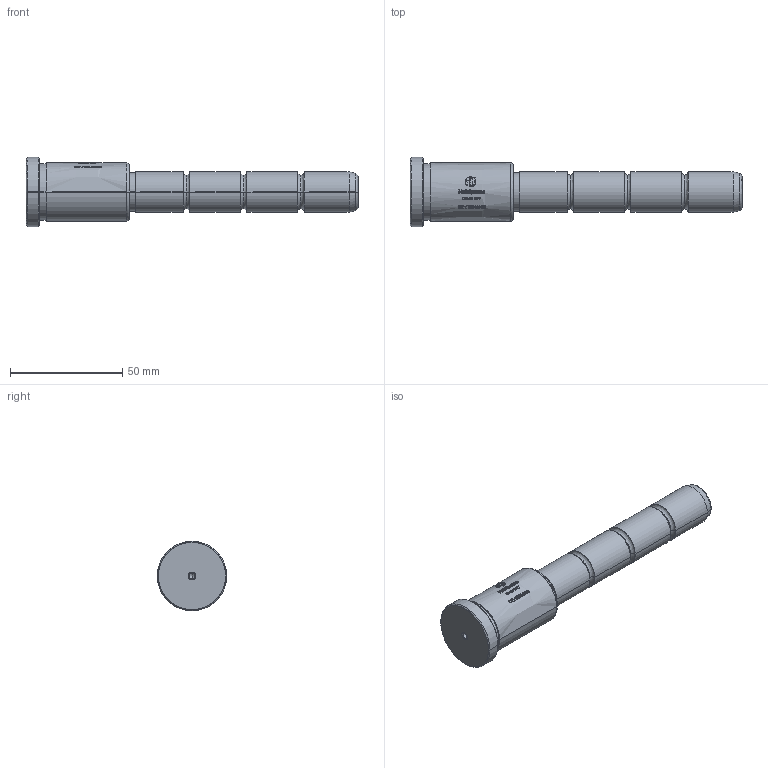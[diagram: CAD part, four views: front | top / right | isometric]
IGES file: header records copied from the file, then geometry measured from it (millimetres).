
Start section: SolidWorks IGES file using analytic representation for surfaces
Global section: file name: C:\Users\User\Downloads\CFM - 08-09\CFM  - Nova\18\CFM18046102.IGS; native system: SolidWorks 2024; preprocessor: SolidWorks 2024; author: User; date: 260909.103230; units: millimetre
Bounding box: 148 x 31 x 31 mm (x, y, z)
Surface area: 11406.8 mm2 (no closed solid volume)
Topology: 0 solids, 0 shells, 484 faces, 4626 edges, 4622 vertices
Faces by surface type: bspline 401, revolution 83
